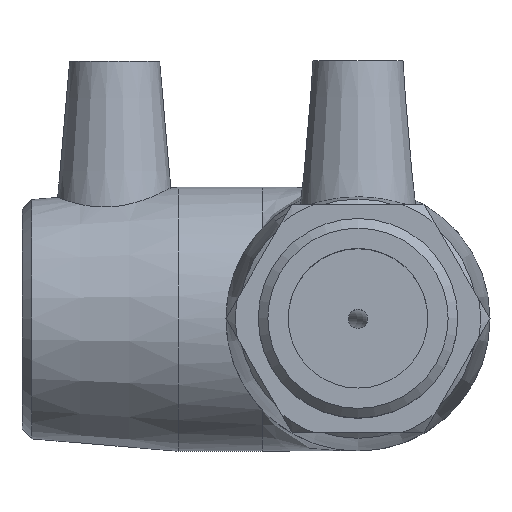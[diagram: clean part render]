
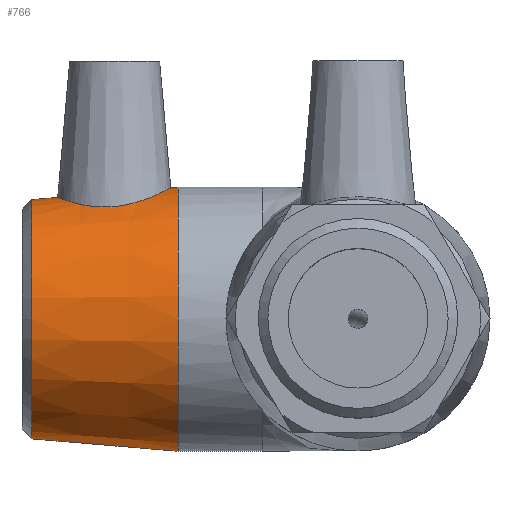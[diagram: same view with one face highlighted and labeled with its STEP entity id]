
A CAD part, top view. The second image highlights one B-rep face of the part: STEP entity #766.
In plain terms, the highlighted conical face has half-angle 4.837 degrees and reference radius 20.9 mm.
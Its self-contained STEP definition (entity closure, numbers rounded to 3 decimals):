
#78=B_SPLINE_CURVE_WITH_KNOTS('',3,(#1235,#1236,#1237,#1238,#1239,#1240,
#1241,#1242,#1243,#1244,#1245,#1246,#1247,#1248,#1249,#1250,#1251,#1252,
#1253,#1254,#1255,#1256,#1257,#1258,#1259,#1260,#1261,#1262,#1263,#1264,
#1265,#1266,#1267,#1268),.UNSPECIFIED.,.T.,.F.,(4,2,2,2,2,2,2,2,2,2,2,2,
2,2,2,2,4),(0.,0.352,0.703,1.058,1.412,
1.766,2.121,2.472,2.824,3.207,
3.59,3.962,4.334,4.706,5.077,
5.46,5.843),.UNSPECIFIED.);
#82=CONICAL_SURFACE('',#839,20.9,4.837);
#133=FACE_BOUND('',#243,.T.);
#134=FACE_BOUND('',#244,.T.);
#175=FACE_OUTER_BOUND('',#242,.T.);
#242=EDGE_LOOP('',(#568));
#243=EDGE_LOOP('',(#569));
#244=EDGE_LOOP('',(#570));
#338=CIRCLE('',#838,19.935);
#339=CIRCLE('',#840,22.);
#389=VERTEX_POINT('',#1229);
#390=VERTEX_POINT('',#1232);
#391=VERTEX_POINT('',#1234);
#466=EDGE_CURVE('',#389,#389,#338,.T.);
#467=EDGE_CURVE('',#390,#390,#339,.T.);
#468=EDGE_CURVE('',#391,#391,#78,.T.);
#568=ORIENTED_EDGE('',*,*,#467,.F.);
#569=ORIENTED_EDGE('',*,*,#468,.T.);
#570=ORIENTED_EDGE('',*,*,#466,.F.);
#766=ADVANCED_FACE('',(#175,#133,#134),#82,.T.);
#838=AXIS2_PLACEMENT_3D('',#1230,#968,#969);
#839=AXIS2_PLACEMENT_3D('',#1231,#970,#971);
#840=AXIS2_PLACEMENT_3D('',#1233,#972,#973);
#968=DIRECTION('center_axis',(-1.,0.,0.));
#969=DIRECTION('ref_axis',(0.,-1.,0.));
#970=DIRECTION('center_axis',(1.,0.,0.));
#971=DIRECTION('ref_axis',(0.,1.,0.));
#972=DIRECTION('center_axis',(1.,0.,0.));
#973=DIRECTION('ref_axis',(0.,0.,-1.));
#1229=CARTESIAN_POINT('',(-54.406,19.935,0.));
#1230=CARTESIAN_POINT('Origin',(-54.406,0.,0.));
#1231=CARTESIAN_POINT('Origin',(-43.,0.,0.));
#1232=CARTESIAN_POINT('',(-30.,22.,0.));
#1233=CARTESIAN_POINT('Origin',(-30.,0.,0.));
#1234=CARTESIAN_POINT('',(-40.994,18.75,9.612));
#1235=CARTESIAN_POINT('Ctrl Pts',(-40.994,18.75,9.612));
#1236=CARTESIAN_POINT('Ctrl Pts',(-42.162,18.662,9.567));
#1237=CARTESIAN_POINT('Ctrl Pts',(-43.394,18.696,9.282));
#1238=CARTESIAN_POINT('Ctrl Pts',(-45.631,18.969,8.247));
#1239=CARTESIAN_POINT('Ctrl Pts',(-46.637,19.198,7.498));
#1240=CARTESIAN_POINT('Ctrl Pts',(-48.219,19.635,5.812));
#1241=CARTESIAN_POINT('Ctrl Pts',(-48.906,19.873,4.753));
#1242=CARTESIAN_POINT('Ctrl Pts',(-49.819,20.21,2.438));
#1243=CARTESIAN_POINT('Ctrl Pts',(-50.046,20.304,1.181));
#1244=CARTESIAN_POINT('Ctrl Pts',(-50.046,20.304,-1.181));
#1245=CARTESIAN_POINT('Ctrl Pts',(-49.819,20.21,-2.438));
#1246=CARTESIAN_POINT('Ctrl Pts',(-48.906,19.873,-4.753));
#1247=CARTESIAN_POINT('Ctrl Pts',(-48.219,19.635,-5.812));
#1248=CARTESIAN_POINT('Ctrl Pts',(-46.637,19.198,-7.498));
#1249=CARTESIAN_POINT('Ctrl Pts',(-45.631,18.969,-8.247));
#1250=CARTESIAN_POINT('Ctrl Pts',(-43.394,18.696,-9.282));
#1251=CARTESIAN_POINT('Ctrl Pts',(-42.162,18.662,-9.567));
#1252=CARTESIAN_POINT('Ctrl Pts',(-39.723,18.845,-9.661));
#1253=CARTESIAN_POINT('Ctrl Pts',(-38.392,19.095,-9.434));
#1254=CARTESIAN_POINT('Ctrl Pts',(-35.974,19.769,-8.458));
#1255=CARTESIAN_POINT('Ctrl Pts',(-34.882,20.185,-7.709));
#1256=CARTESIAN_POINT('Ctrl Pts',(-33.184,20.906,-5.999));
#1257=CARTESIAN_POINT('Ctrl Pts',(-32.449,21.263,-4.926));
#1258=CARTESIAN_POINT('Ctrl Pts',(-31.464,21.761,-2.547));
#1259=CARTESIAN_POINT('Ctrl Pts',(-31.214,21.897,-1.24));
#1260=CARTESIAN_POINT('Ctrl Pts',(-31.214,21.897,1.24));
#1261=CARTESIAN_POINT('Ctrl Pts',(-31.464,21.761,2.547));
#1262=CARTESIAN_POINT('Ctrl Pts',(-32.449,21.263,4.926));
#1263=CARTESIAN_POINT('Ctrl Pts',(-33.184,20.906,5.999));
#1264=CARTESIAN_POINT('Ctrl Pts',(-34.882,20.185,7.709));
#1265=CARTESIAN_POINT('Ctrl Pts',(-35.974,19.769,8.458));
#1266=CARTESIAN_POINT('Ctrl Pts',(-38.392,19.095,9.434));
#1267=CARTESIAN_POINT('Ctrl Pts',(-39.723,18.845,9.661));
#1268=CARTESIAN_POINT('Ctrl Pts',(-40.994,18.75,9.612));
